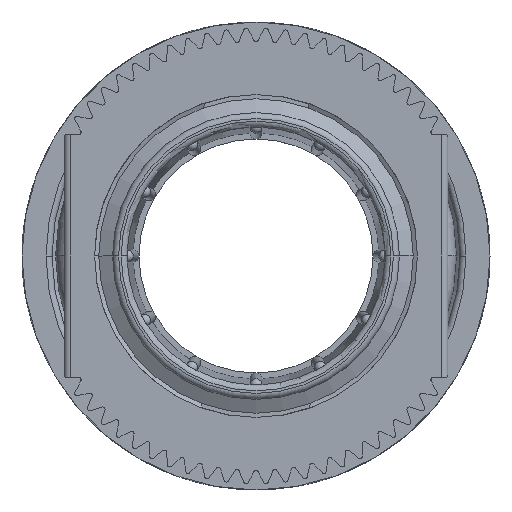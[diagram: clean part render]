
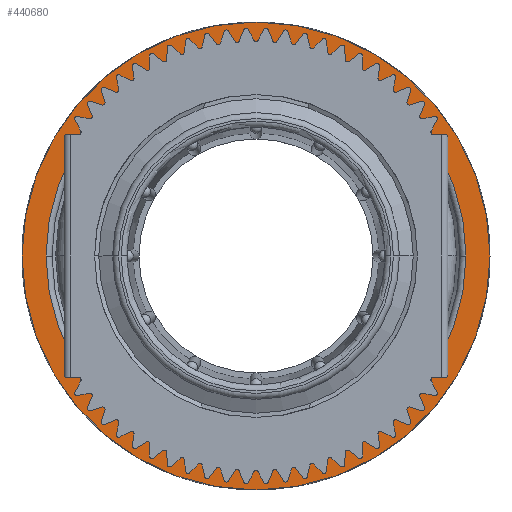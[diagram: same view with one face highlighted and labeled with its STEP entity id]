
A CAD part, left-side view. The second image highlights one B-rep face of the part: STEP entity #440680.
In plain terms, the highlighted planar face has unit normal (-1, 0, 0).
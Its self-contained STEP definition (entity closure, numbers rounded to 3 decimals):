
#228300=CARTESIAN_POINT('',(23.643,-17.778,
0.));
#228310=VERTEX_POINT('',#228300);
#228500=CARTESIAN_POINT('',(23.643,17.222,
0.));
#228510=VERTEX_POINT('',#228500);
#228540=CARTESIAN_POINT('',(23.643,-0.278,
0.));
#228550=DIRECTION('',(1.,0.,0.));
#228560=DIRECTION('',(0.,-1.,0.));
#228570=AXIS2_PLACEMENT_3D('',#228540,#228550,#228560);
#228580=CIRCLE('',#228570,17.5);
#228590=EDGE_CURVE('',#228510,#228310,#228580,.T.);
#235820=CARTESIAN_POINT('',(23.643,19.222,
0.));
#235830=VERTEX_POINT('',#235820);
#235860=CARTESIAN_POINT('',(23.643,-0.278,
0.));
#235870=DIRECTION('',(1.,0.,0.));
#235880=DIRECTION('',(0.,-1.,0.));
#235890=AXIS2_PLACEMENT_3D('',#235860,#235870,#235880);
#235900=CIRCLE('',#235890,19.5);
#235910=CARTESIAN_POINT('',(23.643,-19.778,
0.));
#235920=VERTEX_POINT('',#235910);
#235930=EDGE_CURVE('',#235920,#235830,#235900,.T.);
#440530=CARTESIAN_POINT('',(23.643,-20.754,
20.475));
#440540=DIRECTION('',(-1.,0.,0.));
#440550=DIRECTION('',(0.,1.,0.));
#440560=AXIS2_PLACEMENT_3D('',#440530,#440540,#440550);
#440570=PLANE('',#440560);
#440580=EDGE_CURVE('',#235830,#235920,#235900,.T.);
#440590=ORIENTED_EDGE('',*,*,#440580,.F.);
#440600=ORIENTED_EDGE('',*,*,#235930,.F.);
#440610=EDGE_LOOP('',(#440600,#440590));
#440620=FACE_OUTER_BOUND('',#440610,.T.);
#440630=EDGE_CURVE('',#228310,#228510,#228580,.T.);
#440640=ORIENTED_EDGE('',*,*,#440630,.T.);
#440650=ORIENTED_EDGE('',*,*,#228590,.T.);
#440660=EDGE_LOOP('',(#440650,#440640));
#440670=FACE_BOUND('',#440660,.T.);
#440680=ADVANCED_FACE('',(#440620,#440670),#440570,.T.);
